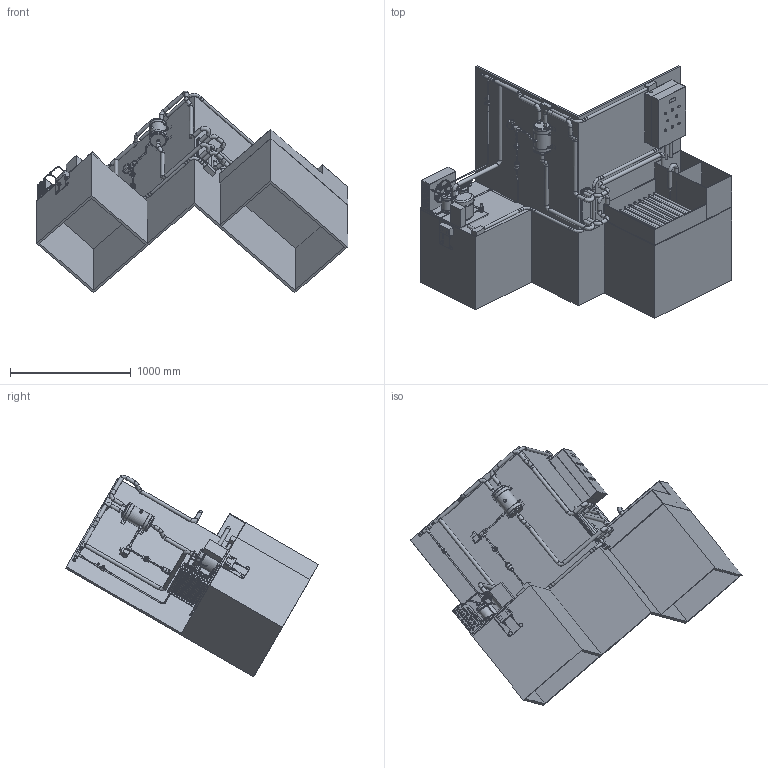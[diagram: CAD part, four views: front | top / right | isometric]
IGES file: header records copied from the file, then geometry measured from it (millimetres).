
Global section: file name: 1 Sistema de Refrigeração Industrial - 3D v3,2; native system: 2HAutoCAD 2015 - English; preprocessor: Autodesk Translation Framework DWG producer (atf_dwg_producer); organization: unknown; date: 20150604.105958; units: millimetre
Bounding box: 2580.94 x 2096.25 x 1672.29 mm (x, y, z)
Volume: 195030049.4 mm3; surface area: 24106049.1 mm2
Topology: 449 solids, 449 shells, 2269 faces, 4566 edges, 3217 vertices
Faces by surface type: bspline 2250, revolution 16, plane 3
